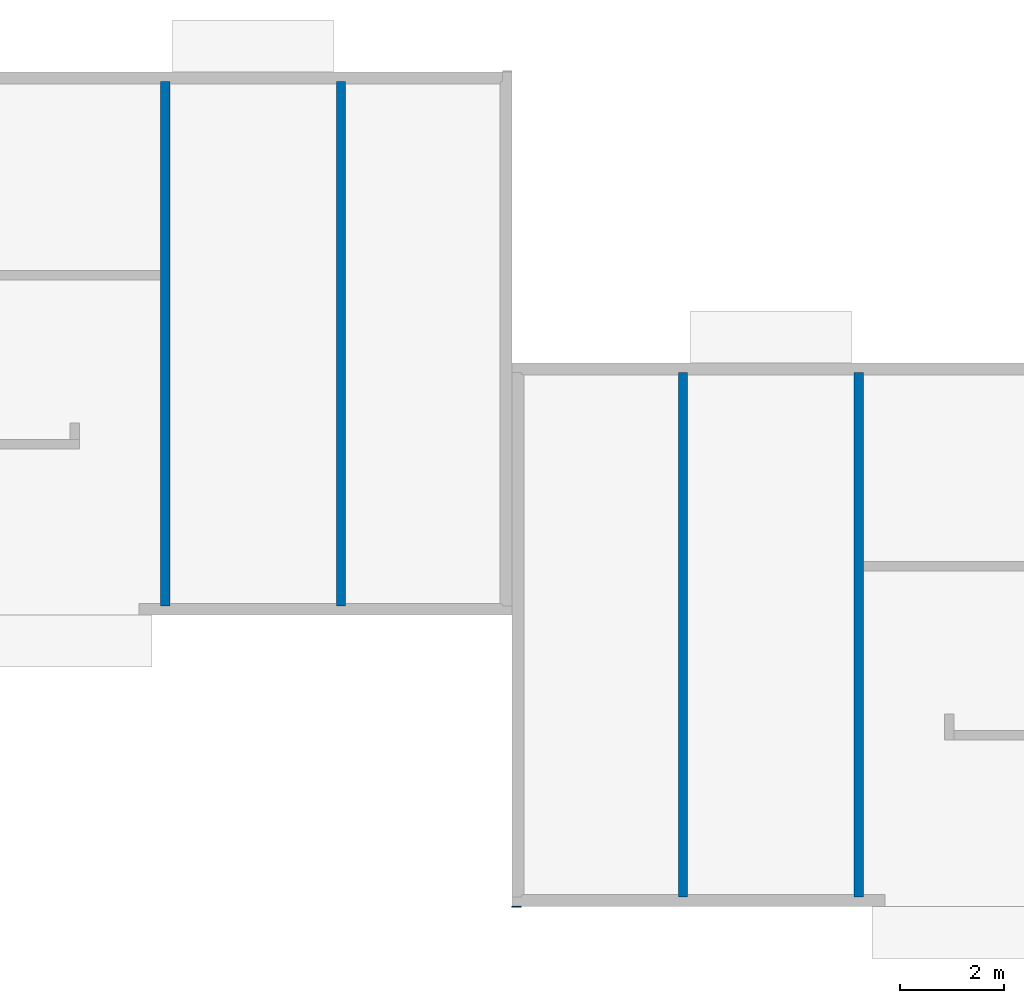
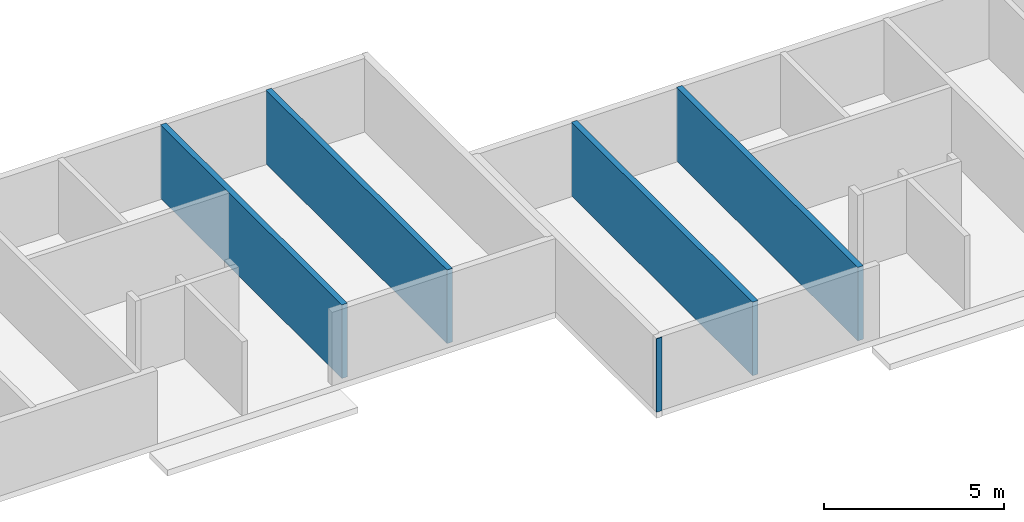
# One storey, part 5 of 10: 5 walls.
"""IFC2X3 building model written with IfcOpenShell, lengths in metres."""

from ifc_helpers import new_model, si_unit, frame, frame_2d, origin, origin_with_axes, place, context, project, spatial, rectangle, extrude, element, save


model = new_model("IFC2X3")

# Units and contexts
model_context = context("Model", 3, precision=1e-06, world=origin())
ifc_project = project(units=[si_unit("LENGTHUNIT", "METRE"), si_unit("PLANEANGLEUNIT", "RADIAN")], contexts=[model_context])

# Site, building, storey
site = spatial("IfcSite", under=ifc_project, CompositionType="ELEMENT")
building = spatial("IfcBuilding", under=site, CompositionType="ELEMENT")
storey = spatial("IfcBuildingStorey", under=building, Name="r+1", CompositionType="ELEMENT", Elevation=2.7)

# Walls
placement = place(None, origin())
wall_placement = place(placement, frame((39.69999999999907, -5.579922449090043, 2.7), z_axis=(0.0, 0.0, 1.0), x_axis=(1.0, 0.0, 0.0)))
element("IfcWall", 1, at=wall_placement, inside=storey, context=model_context, shape_type="SweptSolid", body=[
    extrude(rectangle(XDim=0.18, YDim=0.020077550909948, at=frame_2d((0.09, 0.010038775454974), x_axis=(1.0, 0.0)), kind="CURVE"), frame((0.0, -0.020077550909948, 0.0), z_axis=(0.0, 0.0, 1.0), x_axis=(1.0, 0.0, 0.0)), (0.0, 0.0, 1.0), 2.5),
])
for number, where, z_axis, x_axis in (
    (2, (43.07999999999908, -5.399922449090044, 2.7), (0.0, 0.0, 1.0), (0.0, 1.0, 0.0)),
    (3, (46.459999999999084, -5.399922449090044, 2.7), (0.0, 0.0, 1.0), (0.0, 1.0, 0.0)),
    (4, (33.11999999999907, 0.200077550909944, 2.7), (0.0, 0.0, 1.0), (0.0, 1.0, 0.0)),
    (5, (36.49999999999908, 0.200077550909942, 2.7), (0.0, 0.0, 1.0), (0.0, 1.0, 0.0)),
):
    element("IfcWall", number, at=place(placement, frame(where, z_axis=z_axis, x_axis=x_axis)), inside=storey, context=model_context, shape_type="SweptSolid", body=[
        extrude(rectangle(XDim=10.090000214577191, YDim=0.18, at=frame_2d((5.045000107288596, 0.09), x_axis=(1.0, 0.0)), kind="CURVE"), origin_with_axes(), (0.0, 0.0, 1.0), 2.5),
    ])

save(model, "model.ifc")
